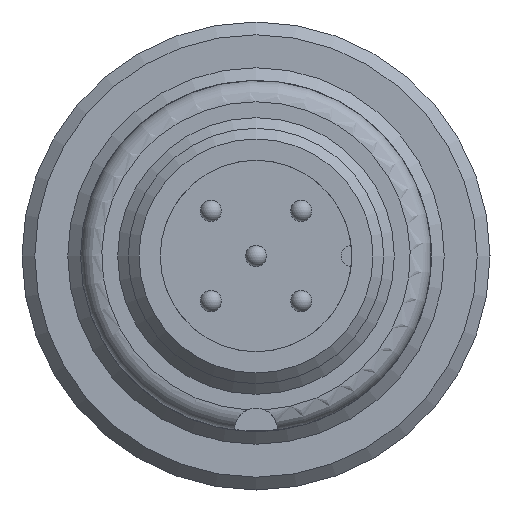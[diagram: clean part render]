
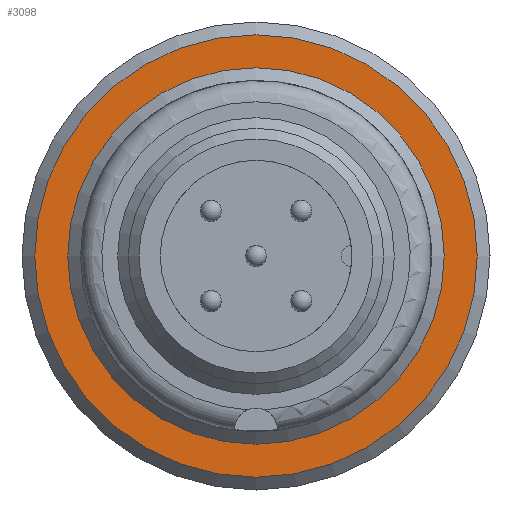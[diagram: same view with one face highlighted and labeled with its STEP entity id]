
A CAD part, left-side view. The second image highlights one B-rep face of the part: STEP entity #3098.
In plain terms, the highlighted planar face has unit normal (-1, 0, 0).
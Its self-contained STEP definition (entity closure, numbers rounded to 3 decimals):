
#3064=CARTESIAN_POINT('',(-22.878,8.85,0.0));
#3065=VERTEX_POINT('',#3064);
#3066=CARTESIAN_POINT('',(-22.878,0.,0.0));
#3067=DIRECTION('',(1.0,0.0,0.0));
#3068=DIRECTION('',(0.0,1.0,0.0));
#3069=AXIS2_PLACEMENT_3D('',#3066,#3067,#3068);
#3070=CIRCLE('',#3069,8.85);
#3071=EDGE_CURVE('',#3065,#3065,#3070,.T.);
#3079=CARTESIAN_POINT('',(-22.878,9.625,0.0));
#3080=DIRECTION('',(-1.0,0.0,0.0));
#3081=DIRECTION('',(0.0,0.0,1.0));
#3082=AXIS2_PLACEMENT_3D('',#3079,#3080,#3081);
#3083=PLANE('',#3082);
#3084=CARTESIAN_POINT('',(-22.878,10.4,0.0));
#3085=VERTEX_POINT('',#3084);
#3086=CARTESIAN_POINT('',(-22.878,0.,0.0));
#3087=DIRECTION('',(1.0,0.0,0.0));
#3088=DIRECTION('',(0.0,1.0,0.0));
#3089=AXIS2_PLACEMENT_3D('',#3086,#3087,#3088);
#3090=CIRCLE('',#3089,10.4);
#3091=EDGE_CURVE('',#3085,#3085,#3090,.T.);
#3092=ORIENTED_EDGE('',*,*,#3091,.F.);
#3093=EDGE_LOOP('',(#3092));
#3094=FACE_OUTER_BOUND('',#3093,.T.);
#3095=ORIENTED_EDGE('',*,*,#3071,.T.);
#3096=EDGE_LOOP('',(#3095));
#3097=FACE_BOUND('',#3096,.T.);
#3098=ADVANCED_FACE('',(#3094,#3097),#3083,.T.);
